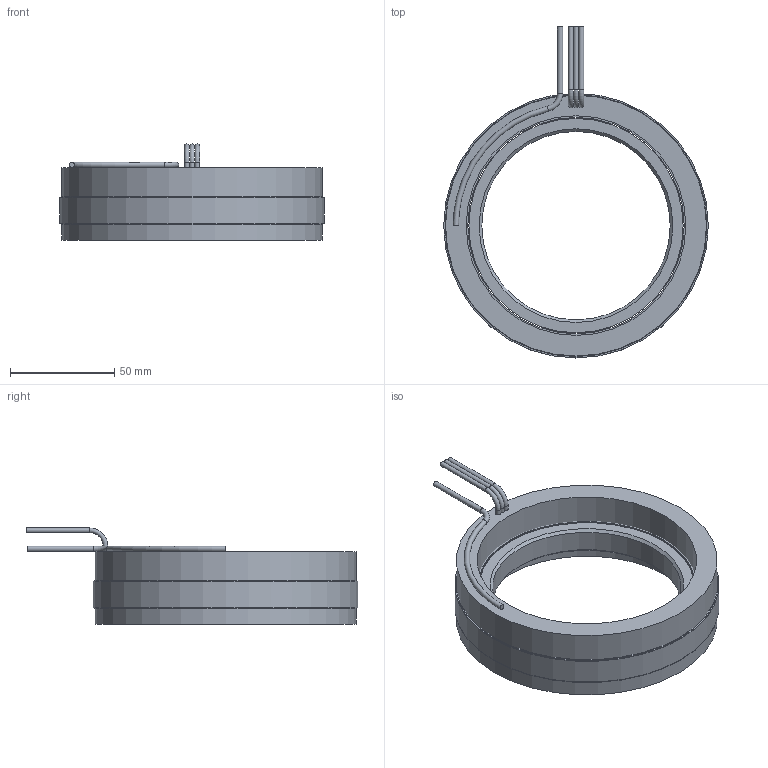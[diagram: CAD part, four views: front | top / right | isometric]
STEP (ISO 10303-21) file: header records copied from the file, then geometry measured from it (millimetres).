
FILE_DESCRIPTION (( 'STEP AP214' ), '1' );
FILE_NAME ('6100396-01.STEP', '2020-12-15T18:07:19', ( '' ), ( '' ), 'SwSTEP 2.0', 'SolidWorks 2016', '' );
FILE_SCHEMA (( 'AUTOMOTIVE_DESIGN' ));
Length unit declared in the file: inch
Products named in the file (10): COMP4500562-XX(COIL)_COMP4500562-01(COIL); 4400105-00; 4150182-XX_4150182-01; 4250384-XX_4250384-01; 6100396-01; 4450193-XX_4450193-01; 4600569-00; 4500562-XX_4500562-01
Assembly tree (10 placements, depth 4):
  6100396-01
    4250384-XX_4250384-01
      4150182-XX_4150182-01
    4500562-XX_4500562-01
      4450193-XX_4450193-01
        4450193-XX_4450193-01
        4400105-00
        4400105-00
        4600569-00  x2
      COMP4500562-XX(COIL)_COMP4500562-01(COIL)
Bounding box: 127 x 159.26 x 46.1 mm (x, y, z)
Volume: 204803.8 mm3; surface area: 95876.2 mm2
Topology: 8 solids, 8 shells, 47 faces, 74 edges, 46 vertices
Faces by surface type: cylinder 21, plane 19, torus 5, cone 2
Full cylindrical faces by diameter (mm): 2.286 x6, 2.54 x1, 90.424 x1, 102.87 x1, 103.886 x5, 105.41 x1, 125.222 x1, 125.73 x2, 127 x3
Entity records: 1305 total; most frequent: DIRECTION 202, CARTESIAN_POINT 143, AXIS2_PLACEMENT_3D 101, ORIENTED_EDGE 84, EDGE_LOOP 84, FACE_OUTER_BOUND 67, ADVANCED_FACE 43, VERTEX_POINT 42
